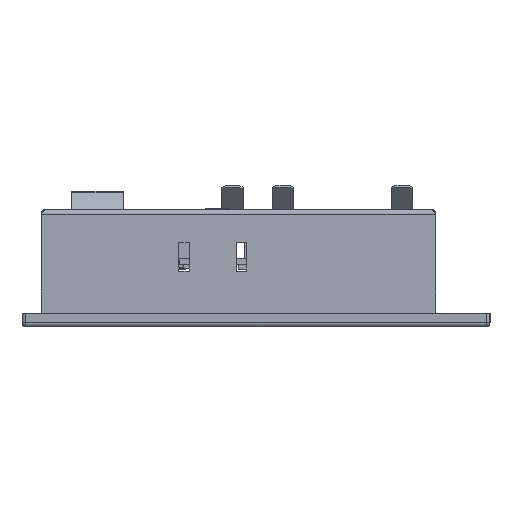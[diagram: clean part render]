
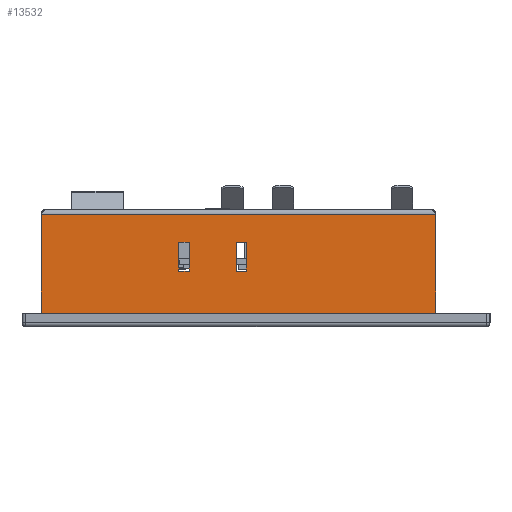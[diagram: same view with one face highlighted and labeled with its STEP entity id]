
A CAD part, left-side view. The second image highlights one B-rep face of the part: STEP entity #13532.
In plain terms, the highlighted planar face has unit normal (-1, 0, 0).
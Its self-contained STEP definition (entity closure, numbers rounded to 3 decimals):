
#64 = VERTEX_POINT ( 'NONE', #23360 ) ;
#101 = CARTESIAN_POINT ( 'NONE',  ( -0.8, -0.75, 0.8 ) ) ;
#201 = CARTESIAN_POINT ( 'NONE',  ( -0.8, 0., -75.4 ) ) ;
#454 = VECTOR ( 'NONE', #24328, 1000. ) ;
#650 = VERTEX_POINT ( 'NONE', #24599 ) ;
#653 = EDGE_LOOP ( 'NONE', ( #14530, #13130, #8921, #3601 ) ) ;
#710 = VERTEX_POINT ( 'NONE', #21762 ) ;
#740 = CARTESIAN_POINT ( 'NONE',  ( -0.8, -9.1, -75.4 ) ) ;
#806 = CARTESIAN_POINT ( 'NONE',  ( -0.8, -30.1, 0. ) ) ;
#807 = VERTEX_POINT ( 'NONE', #2013 ) ;
#1395 = LINE ( 'NONE', #19174, #5970 ) ;
#1443 = EDGE_CURVE ( 'NONE', #650, #7053, #18851, .T. ) ;
#1924 = VERTEX_POINT ( 'NONE', #5603 ) ;
#1990 = CARTESIAN_POINT ( 'NONE',  ( -0.8, -0.75, -115.4 ) ) ;
#2013 = CARTESIAN_POINT ( 'NONE',  ( -0.8, -0.75, -116.2 ) ) ;
#2349 = ORIENTED_EDGE ( 'NONE', *, *, #8961, .T. ) ;
#2519 = VERTEX_POINT ( 'NONE', #9586 ) ;
#2564 = FACE_BOUND ( 'NONE', #23865, .T. ) ;
#3063 = EDGE_CURVE ( 'NONE', #7372, #710, #11460, .T. ) ;
#3199 = FACE_OUTER_BOUND ( 'NONE', #3723, .T. ) ;
#3601 = ORIENTED_EDGE ( 'NONE', *, *, #1443, .T. ) ;
#3723 = EDGE_LOOP ( 'NONE', ( #24542, #5984, #23264, #11030 ) ) ;
#3751 = VECTOR ( 'NONE', #21467, 1000. ) ;
#3945 = DIRECTION ( 'NONE',  ( 0., 0., 1. ) ) ;
#4230 = DIRECTION ( 'NONE',  ( 0., 1., 0. ) ) ;
#4436 = LINE ( 'NONE', #21179, #19336 ) ;
#4884 = CARTESIAN_POINT ( 'NONE',  ( -0.8, 0., -58.4 ) ) ;
#5585 = DIRECTION ( 'NONE',  ( 0., 0., -1. ) ) ;
#5603 = CARTESIAN_POINT ( 'NONE',  ( -0.8, -17.6, -75.4 ) ) ;
#5795 = AXIS2_PLACEMENT_3D ( 'NONE', #6119, #15870, #4230 ) ;
#5970 = VECTOR ( 'NONE', #5585, 1000. ) ;
#5984 = ORIENTED_EDGE ( 'NONE', *, *, #3063, .F. ) ;
#6119 = CARTESIAN_POINT ( 'NONE',  ( -0.8, 0., -115.4 ) ) ;
#6557 = CARTESIAN_POINT ( 'NONE',  ( -0.8, -9.1, -55.4 ) ) ;
#6848 = CARTESIAN_POINT ( 'NONE',  ( -0.8, -0.75, -116.2 ) ) ;
#6902 = ORIENTED_EDGE ( 'NONE', *, *, #16783, .T. ) ;
#6948 = VERTEX_POINT ( 'NONE', #12094 ) ;
#7053 = VERTEX_POINT ( 'NONE', #16765 ) ;
#7110 = DIRECTION ( 'NONE',  ( 0., 0., 1. ) ) ;
#7174 = LINE ( 'NONE', #20380, #12339 ) ;
#7372 = VERTEX_POINT ( 'NONE', #19729 ) ;
#7552 = VERTEX_POINT ( 'NONE', #6557 ) ;
#7643 = VECTOR ( 'NONE', #24148, 1000. ) ;
#7855 = CARTESIAN_POINT ( 'NONE',  ( -0.8, -17.6, -115.4 ) ) ;
#8921 = ORIENTED_EDGE ( 'NONE', *, *, #17756, .T. ) ;
#8961 = EDGE_CURVE ( 'NONE', #13648, #16263, #9980, .T. ) ;
#9018 = LINE ( 'NONE', #6848, #23328 ) ;
#9533 = DIRECTION ( 'NONE',  ( 0., 0., 1. ) ) ;
#9580 = VECTOR ( 'NONE', #23654, 1000. ) ;
#9586 = CARTESIAN_POINT ( 'NONE',  ( -0.8, -17.6, -72.4 ) ) ;
#9621 = LINE ( 'NONE', #10653, #13530 ) ;
#9658 = DIRECTION ( 'NONE',  ( 0., 1., 0. ) ) ;
#9758 = EDGE_CURVE ( 'NONE', #2519, #1924, #1395, .T. ) ;
#9863 = EDGE_CURVE ( 'NONE', #807, #7372, #19643, .T. ) ;
#9980 = LINE ( 'NONE', #16762, #13896 ) ;
#10312 = EDGE_CURVE ( 'NONE', #16263, #2519, #7174, .T. ) ;
#10653 = CARTESIAN_POINT ( 'NONE',  ( -0.8, 0., -55.4 ) ) ;
#10668 = DIRECTION ( 'NONE',  ( 0., -1., 0. ) ) ;
#11030 = ORIENTED_EDGE ( 'NONE', *, *, #13159, .T. ) ;
#11460 = LINE ( 'NONE', #101, #454 ) ;
#11581 = VECTOR ( 'NONE', #9658, 1000. ) ;
#12094 = CARTESIAN_POINT ( 'NONE',  ( -0.8, -30.1, -116.2 ) ) ;
#12339 = VECTOR ( 'NONE', #10668, 1000. ) ;
#12697 = DIRECTION ( 'NONE',  ( 0., -1., 0. ) ) ;
#13124 = EDGE_CURVE ( 'NONE', #7552, #64, #9621, .T. ) ;
#13130 = ORIENTED_EDGE ( 'NONE', *, *, #13124, .T. ) ;
#13159 = EDGE_CURVE ( 'NONE', #807, #6948, #9018, .T. ) ;
#13530 = VECTOR ( 'NONE', #22325, 1000. ) ;
#13532 = ADVANCED_FACE ( 'NONE', ( #2564, #22690, #3199 ), #13920, .F. ) ;
#13648 = VERTEX_POINT ( 'NONE', #740 ) ;
#13896 = VECTOR ( 'NONE', #7110, 1000. ) ;
#13920 = PLANE ( 'NONE',  #5795 ) ;
#14070 = CARTESIAN_POINT ( 'NONE',  ( -0.8, -9.1, -72.4 ) ) ;
#14530 = ORIENTED_EDGE ( 'NONE', *, *, #23194, .T. ) ;
#15870 = DIRECTION ( 'NONE',  ( 1., 0., 0. ) ) ;
#16263 = VERTEX_POINT ( 'NONE', #14070 ) ;
#16762 = CARTESIAN_POINT ( 'NONE',  ( -0.8, -9.1, -115.4 ) ) ;
#16765 = CARTESIAN_POINT ( 'NONE',  ( -0.8, -9.1, -58.4 ) ) ;
#16783 = EDGE_CURVE ( 'NONE', #1924, #13648, #19908, .T. ) ;
#16949 = ORIENTED_EDGE ( 'NONE', *, *, #10312, .T. ) ;
#17756 = EDGE_CURVE ( 'NONE', #64, #650, #18017, .T. ) ;
#18017 = LINE ( 'NONE', #7855, #3751 ) ;
#18851 = LINE ( 'NONE', #4884, #11581 ) ;
#19029 = VECTOR ( 'NONE', #3945, 1000. ) ;
#19174 = CARTESIAN_POINT ( 'NONE',  ( -0.8, -17.6, -115.4 ) ) ;
#19336 = VECTOR ( 'NONE', #9533, 1000. ) ;
#19643 = LINE ( 'NONE', #1990, #19029 ) ;
#19729 = CARTESIAN_POINT ( 'NONE',  ( -0.8, -0.75, 0.8 ) ) ;
#19908 = LINE ( 'NONE', #201, #9580 ) ;
#20380 = CARTESIAN_POINT ( 'NONE',  ( -0.8, 0., -72.4 ) ) ;
#21179 = CARTESIAN_POINT ( 'NONE',  ( -0.8, -9.1, -115.4 ) ) ;
#21306 = EDGE_CURVE ( 'NONE', #6948, #710, #23792, .T. ) ;
#21467 = DIRECTION ( 'NONE',  ( 0., 0., -1. ) ) ;
#21762 = CARTESIAN_POINT ( 'NONE',  ( -0.8, -30.1, 0.8 ) ) ;
#22325 = DIRECTION ( 'NONE',  ( 0., -1., 0. ) ) ;
#22690 = FACE_BOUND ( 'NONE', #653, .T. ) ;
#23194 = EDGE_CURVE ( 'NONE', #7053, #7552, #4436, .T. ) ;
#23264 = ORIENTED_EDGE ( 'NONE', *, *, #9863, .F. ) ;
#23328 = VECTOR ( 'NONE', #12697, 1000. ) ;
#23360 = CARTESIAN_POINT ( 'NONE',  ( -0.8, -17.6, -55.4 ) ) ;
#23654 = DIRECTION ( 'NONE',  ( 0., 1., 0. ) ) ;
#23792 = LINE ( 'NONE', #806, #7643 ) ;
#23865 = EDGE_LOOP ( 'NONE', ( #2349, #16949, #25134, #6902 ) ) ;
#24148 = DIRECTION ( 'NONE',  ( 0., 0., 1. ) ) ;
#24328 = DIRECTION ( 'NONE',  ( 0., -1., 0. ) ) ;
#24542 = ORIENTED_EDGE ( 'NONE', *, *, #21306, .T. ) ;
#24599 = CARTESIAN_POINT ( 'NONE',  ( -0.8, -17.6, -58.4 ) ) ;
#25134 = ORIENTED_EDGE ( 'NONE', *, *, #9758, .T. ) ;
